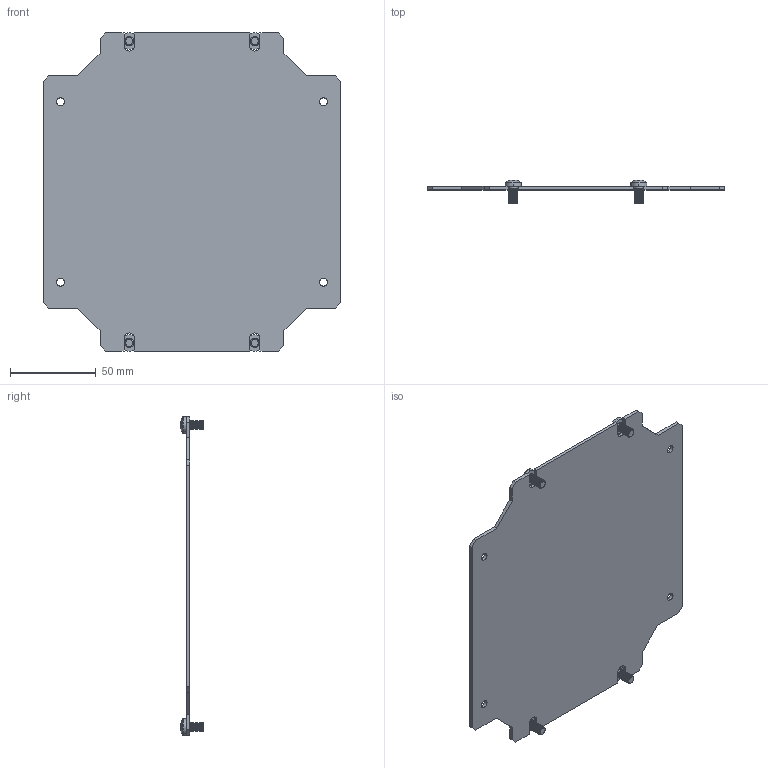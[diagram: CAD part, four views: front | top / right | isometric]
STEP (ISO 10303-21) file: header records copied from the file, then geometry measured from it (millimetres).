
FILE_DESCRIPTION (( 'STEP AP214' ), '1' );
FILE_NAME ('943.222--DM Small 200 W x 200 H Mounting Plate.STEP', '2020-12-03T10:20:06', ( '' ), ( '' ), 'SwSTEP 2.0', 'SolidWorks 2019', '' );
FILE_SCHEMA (( 'AUTOMOTIVE_DESIGN' ));
Length unit declared in the file: millimetre
Products named in the file (8): DM Small Montaj Plakasi 2mm; M5x10; M5x10_ISO 7045 - M5 x 10 - Z --- 10C; DM Small Montaj Plakasi 2mm_PP 20.0102 - 200x200; 943.222--DM Small 200 W x 200 H Mounting Plate
Assembly tree (5 placements, depth 2):
  DM Small Montaj Plakasi 2mm
  M5x10
  M5x10
  943.222--DM Small 200 W x 200 H Mounting Plate
    DM Small Montaj Plakasi 2mm_PP 20.0102 - 200x200
    M5x10_ISO 7045 - M5 x 10 - Z --- 10C  x4
  M5x10
Bounding box: 173 x 13.63 x 185.12 mm (x, y, z)
Volume: 58871.9 mm3; surface area: 60833.7 mm2
Topology: 5 solids, 5 shells, 460 faces, 1214 edges, 760 vertices
Faces by surface type: cone 208, cylinder 118, plane 110, torus 16, sphere 8
Entity records: 5136 total; most frequent: DIRECTION 922, CARTESIAN_POINT 866, ORIENTED_EDGE 828, EDGE_CURVE 414, AXIS2_PLACEMENT_3D 353, VERTEX_POINT 265, VECTOR 216, LINE 216
